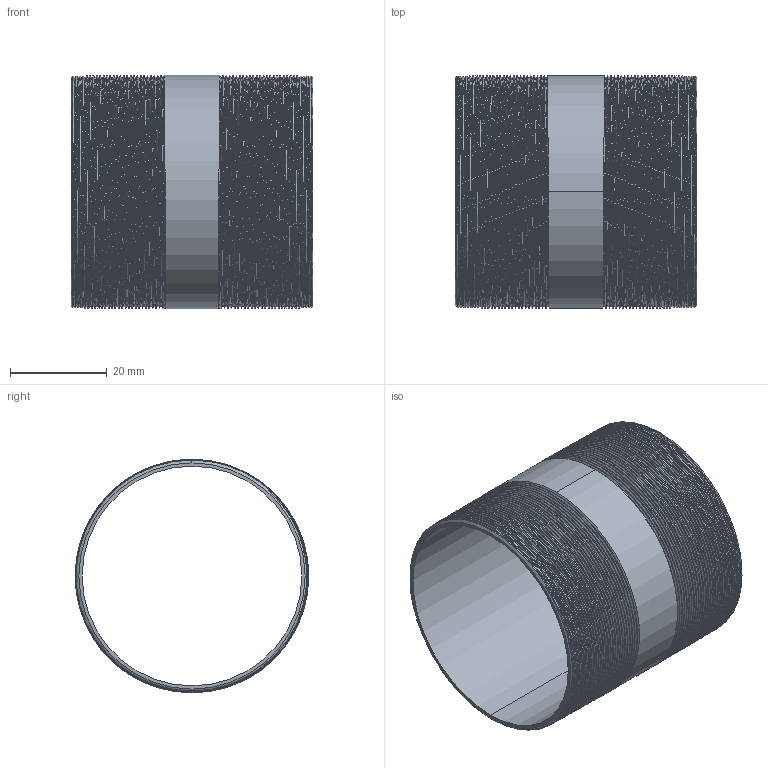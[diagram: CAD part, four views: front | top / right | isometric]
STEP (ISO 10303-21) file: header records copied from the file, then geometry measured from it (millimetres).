
FILE_DESCRIPTION (( 'STEP AP203' ), '1' );
FILE_NAME ('3D_R210_1 1-2x50_17148580.STEP', '2024-08-16T10:03:39', ( '' ), ( '' ), 'SwSTEP 2.0', 'SolidWorks 2024', '' );
FILE_SCHEMA (( 'CONFIG_CONTROL_DESIGN' ));
Length unit declared in the file: millimetre
Products named in the file (1): 3D_R210_1 1-2x50_17148580
Bounding box: 50 x 48.29 x 48.3 mm (x, y, z)
Volume: 9035.2 mm3; surface area: 17684.3 mm2
Topology: 1 solids, 1 shells, 128 faces, 370 edges, 244 vertices
Faces by surface type: cone 114, bspline 6, cylinder 4, plane 4
Entity records: 21897 total; most frequent: CARTESIAN_POINT 18931, ORIENTED_EDGE 740, DIRECTION 398, EDGE_CURVE 370, VERTEX_POINT 244, B_SPLINE_CURVE_WITH_KNOTS 224, AXIS2_PLACEMENT_3D 137, EDGE_LOOP 130
